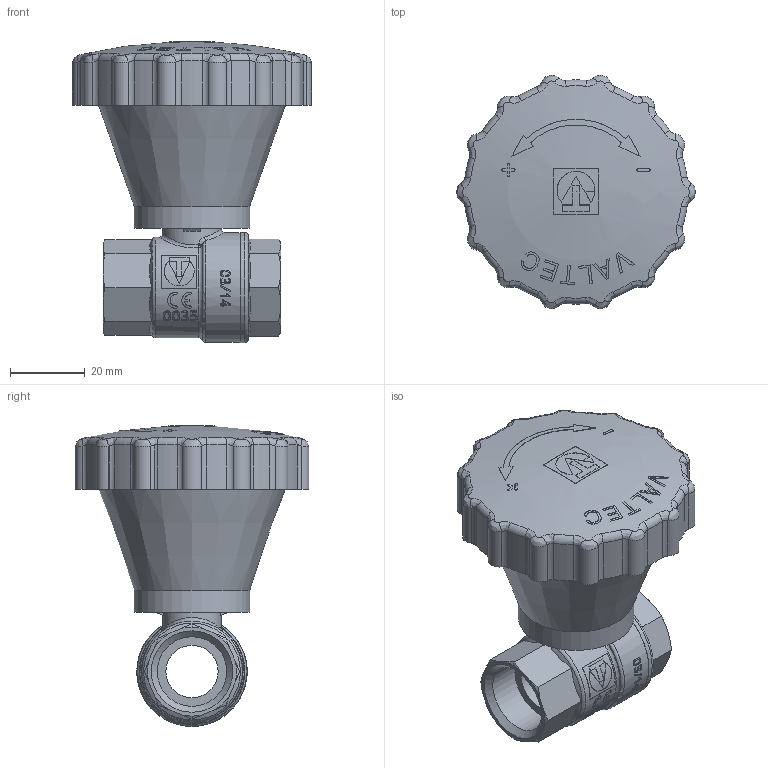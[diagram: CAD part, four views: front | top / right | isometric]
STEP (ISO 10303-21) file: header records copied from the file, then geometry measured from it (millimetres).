
FILE_DESCRIPTION(('TFLEX Exchange Step'),'2;1');
FILE_NAME('Ball valve smooth opening DN15, 1_2 VT.252.N.04 Valtec.stp', '2023-09-12T15:23:07+03:00',('denis'),('Unknown organisation'),'TFLEX Exchange 2023.0','T-FLEX CAD','Unknown authorisation');
FILE_SCHEMA( ('AUTOMOTIVE_DESIGN { 1 0 10303 214 1 1 1 1 }') );
Length unit declared in the file: millimetre
Products named in the file (1): Nodes
Bounding box: 64 x 62.54 x 80.66 mm (x, y, z)
Volume: 101481.1 mm3; surface area: 26759 mm2
Topology: 3 solids, 3 shells, 688 faces, 1810 edges, 1183 vertices
Faces by surface type: bspline 331, plane 188, cylinder 113, cone 20, torus 19, sphere 17
Full cylindrical faces by diameter (mm): 14 x1, 15.729 x1, 18.6 x2, 26.933 x1, 29.333 x1, 29.492 x1, 31 x1, 56 x2, 57 x1
Entity records: 55773 total; most frequent: CARTESIAN_POINT 41030, ORIENTED_EDGE 3614, DIRECTION 2091, EDGE_CURVE 1807, VERTEX_POINT 1183, B_SPLINE_CURVE_WITH_KNOTS 777, EDGE_LOOP 748, FACE_BOUND 748
